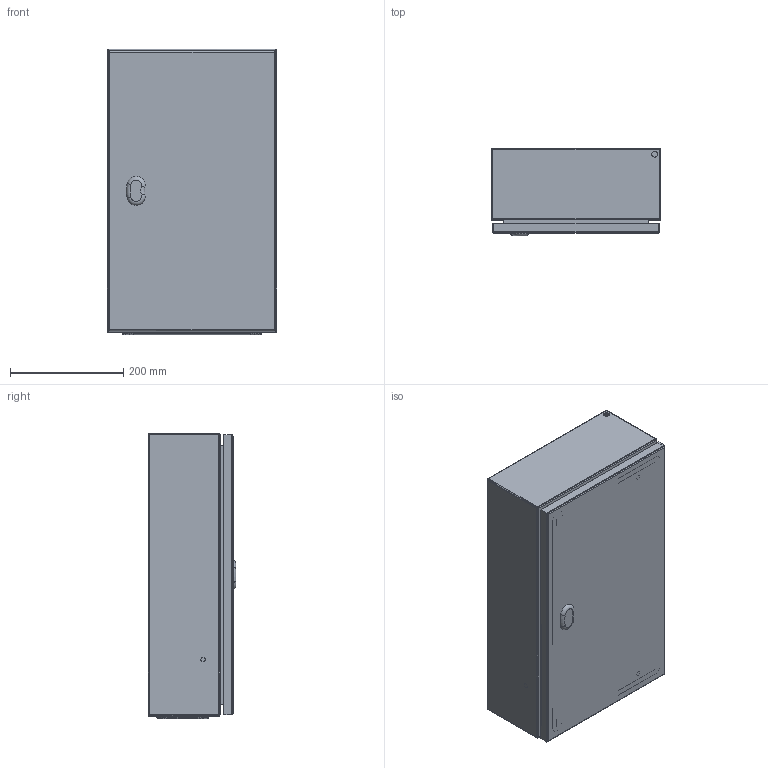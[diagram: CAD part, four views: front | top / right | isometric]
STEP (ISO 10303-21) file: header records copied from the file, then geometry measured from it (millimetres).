
FILE_DESCRIPTION(/* description */ ('STEP AP214'),/* implementation_level */ '2;1');
FILE_NAME(/* name */ 'EC030515-LOD400',/* time_stamp */ '2025-07-31T10:45:40+02:00',/* author */ ('License CC BY-ND 4.0'),/* organization */ ('CADENAS'),/* preprocessor_version */ 'ST-DEVELOPER v19.3',/* originating_system */ 'PARTsolutions',/* authorisation */ ' ');
FILE_SCHEMA (('AUTOMOTIVE_DESIGN {1 0 10303 214 3 1 1}'));
Length unit declared in the file: millimetre
Products named in the file (5): EC030515-LOD400; EC030515-LOD400_cabinet; EC030515-LOD400_door; EC030515-LOD400_bottom_plate; EC030515-LOD400_inner_plate
Assembly tree (4 placements, depth 2):
  EC030515-LOD400
    EC030515-LOD400_cabinet
    EC030515-LOD400_door
    EC030515-LOD400_bottom_plate
    EC030515-LOD400_inner_plate
Bounding box: 300 x 155 x 504 mm (x, y, z)
Volume: 1089602.3 mm3; surface area: 1471167.8 mm2
Topology: 4 solids, 4 shells, 414 faces, 1036 edges, 670 vertices
Faces by surface type: cylinder 172, plane 162, cone 40, torus 40
Full cylindrical faces by diameter (mm): 1 x16, 4.5 x38, 5 x4, 5.5 x4, 6 x4, 7 x4, 8 x12, 10 x10, 14 x4
Entity records: 11739 total; most frequent: DIRECTION 2142, CARTESIAN_POINT 1893, ORIENTED_EDGE 1704, AXIS2_PLACEMENT_3D 871, EDGE_CURVE 852, EDGE_LOOP 724, FACE_BOUND 724, VERTEX_POINT 622
